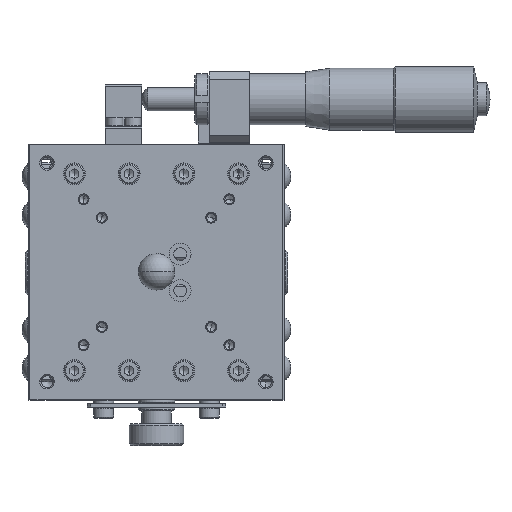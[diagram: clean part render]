
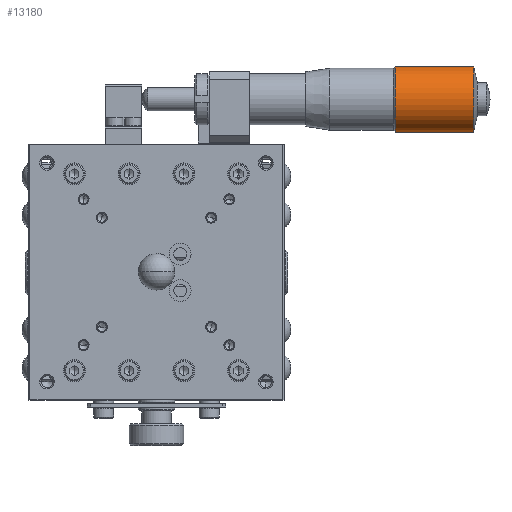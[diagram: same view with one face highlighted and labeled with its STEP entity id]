
A CAD part, top view. The second image highlights one B-rep face of the part: STEP entity #13180.
In plain terms, the highlighted cylindrical face has radius 9 mm (diameter 18 mm), a partial arc.
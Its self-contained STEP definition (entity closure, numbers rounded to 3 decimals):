
#13175 = VERTEX_POINT ( 'NONE', #29481 ) ;
#13180 = ADVANCED_FACE ( 'NONE', ( #29468 ), #29464, .T. ) ;
#13251 = EDGE_LOOP ( 'NONE', ( #13260, #13269, #13460, #13462 ) ) ;
#13255 = VERTEX_POINT ( 'NONE', #29660 ) ;
#13260 = ORIENTED_EDGE ( 'NONE', *, *, #13264, .T. ) ;
#13264 = EDGE_CURVE ( 'NONE', #13175, #13366, #29638, .T. ) ;
#13269 = ORIENTED_EDGE ( 'NONE', *, *, #13271, .T. ) ;
#13271 = EDGE_CURVE ( 'NONE', #13366, #13388, #29620, .T. ) ;
#13305 = EDGE_CURVE ( 'NONE', #13255, #13388, #29669, .T. ) ;
#13366 = VERTEX_POINT ( 'NONE', #29875 ) ;
#13388 = VERTEX_POINT ( 'NONE', #29955 ) ;
#13460 = ORIENTED_EDGE ( 'NONE', *, *, #13305, .F. ) ;
#13462 = ORIENTED_EDGE ( 'NONE', *, *, #13463, .F. ) ;
#13463 = EDGE_CURVE ( 'NONE', #13175, #13255, #30074, .T. ) ;
#29457 = DIRECTION ( 'NONE',  ( 0., -1., 0. ) ) ;
#29459 = DIRECTION ( 'NONE',  ( -1., 0., 0. ) ) ;
#29461 = AXIS2_PLACEMENT_3D ( 'NONE', #29466, #29459, #29457 ) ;
#29464 = CYLINDRICAL_SURFACE ( 'NONE', #29461, 9. ) ;
#29466 = CARTESIAN_POINT ( 'NONE',  ( -2.669, 0., 0. ) ) ;
#29468 = FACE_OUTER_BOUND ( 'NONE', #13251, .T. ) ;
#29481 = CARTESIAN_POINT ( 'NONE',  ( 91., -9., 0. ) ) ;
#29617 = DIRECTION ( 'NONE',  ( -1., 0., 0. ) ) ;
#29618 = VECTOR ( 'NONE', #29617, 1000. ) ;
#29619 = CARTESIAN_POINT ( 'NONE',  ( -2.669, 9., 0. ) ) ;
#29620 = LINE ( 'NONE', #29619, #29618 ) ;
#29632 = DIRECTION ( 'NONE',  ( 0., -1., 0. ) ) ;
#29633 = DIRECTION ( 'NONE',  ( -1., 0., 0. ) ) ;
#29635 = CARTESIAN_POINT ( 'NONE',  ( 91., 0., 0. ) ) ;
#29637 = AXIS2_PLACEMENT_3D ( 'NONE', #29635, #29633, #29632 ) ;
#29638 = CIRCLE ( 'NONE', #29637, 9. ) ;
#29660 = CARTESIAN_POINT ( 'NONE',  ( 69.5, -9., 0. ) ) ;
#29668 = AXIS2_PLACEMENT_3D ( 'NONE', #29785, #29784, #29783 ) ;
#29669 = CIRCLE ( 'NONE', #29668, 9. ) ;
#29783 = DIRECTION ( 'NONE',  ( 0., -1., 0. ) ) ;
#29784 = DIRECTION ( 'NONE',  ( -1., 0., 0. ) ) ;
#29785 = CARTESIAN_POINT ( 'NONE',  ( 69.5, 0., 0. ) ) ;
#29875 = CARTESIAN_POINT ( 'NONE',  ( 91., 9., 0. ) ) ;
#29955 = CARTESIAN_POINT ( 'NONE',  ( 69.5, 9., 0. ) ) ;
#30069 = DIRECTION ( 'NONE',  ( -1., 0., 0. ) ) ;
#30071 = VECTOR ( 'NONE', #30069, 1000. ) ;
#30073 = CARTESIAN_POINT ( 'NONE',  ( -2.669, -9., 0. ) ) ;
#30074 = LINE ( 'NONE', #30073, #30071 ) ;
